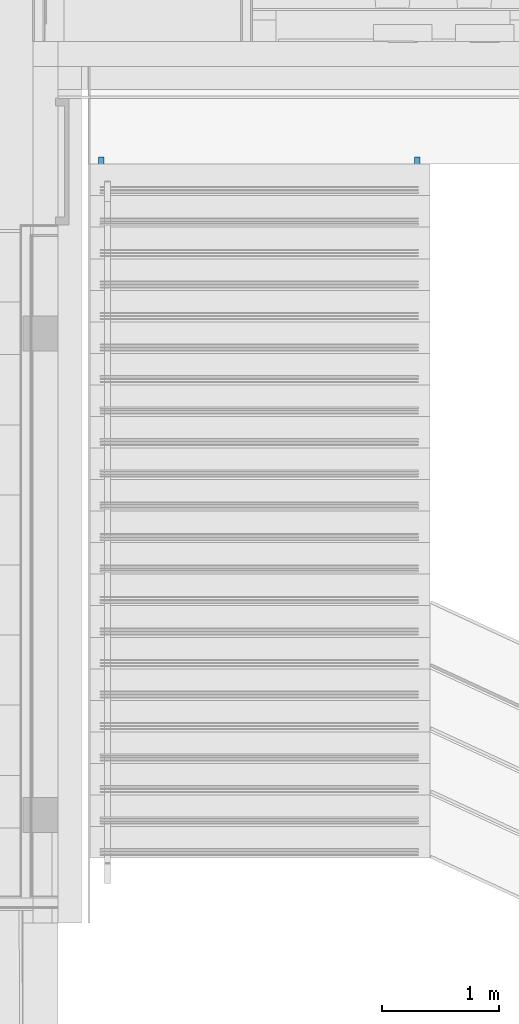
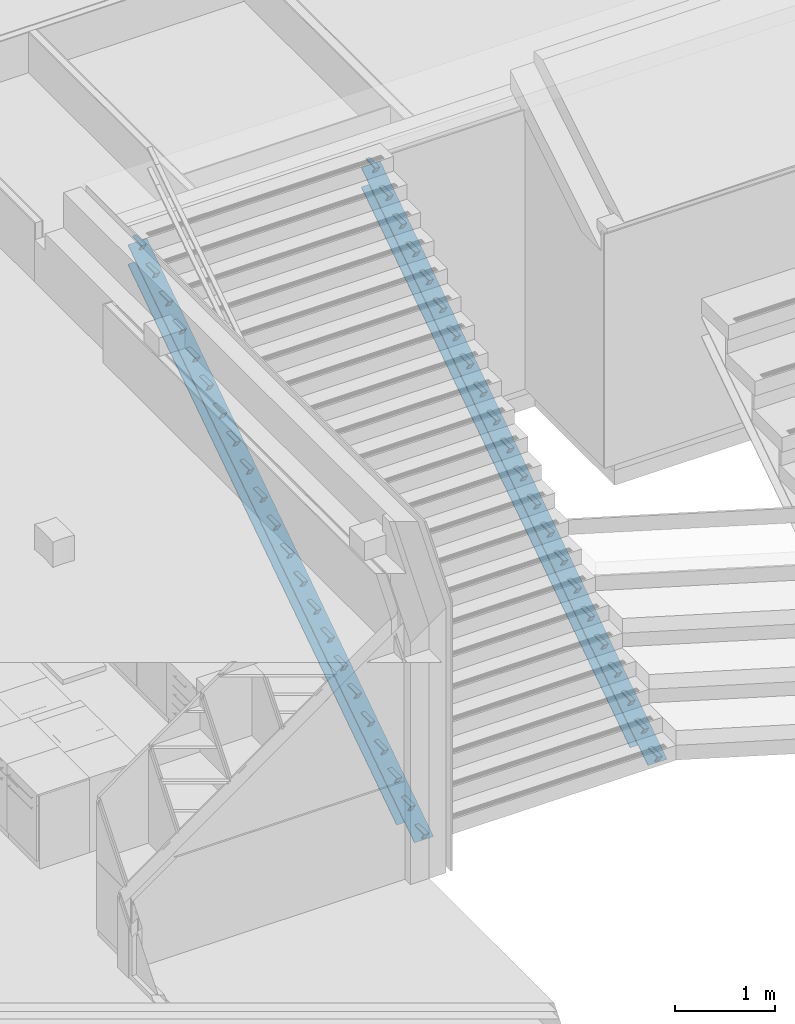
# One storey, part 23 of 167: 1 stair flight, 1 element without a shape of its own.
"""IFC2X3 building model written with IfcOpenShell, lengths in millimetres."""

from ifc_helpers import new_model, entity, si_unit, converted_unit, derived_unit, money_unit, direction, frame, origin_with_axes, place, context, subcontext, project, spatial, faceted_brep, material, type_object, element, aggregate, save


model = new_model("IFC2X3")

# Units and contexts
model_context = context("Model", 3, precision=0.01, world=origin_with_axes(), true_north=direction((0.0, 1.0)))
plan_context = context("Plan", 3, precision=0.01, world=origin_with_axes(), true_north=direction((0.0, 1.0)))
body_context = subcontext(model_context, "Body", "Model", "MODEL_VIEW")
ifc_project = project(units=[si_unit("LENGTHUNIT", "METRE", prefix="MILLI"), si_unit("AREAUNIT", "SQUARE_METRE"), si_unit("VOLUMEUNIT", "CUBIC_METRE"), converted_unit("PLANEANGLEUNIT", "DEGREE", entity("IfcPlaneAngleMeasure", 0.0174532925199), si_unit("PLANEANGLEUNIT", "RADIAN"), dimensions=[0, 0, 0, 0, 0, 0, 0]), si_unit("SOLIDANGLEUNIT", "STERADIAN"), money_unit("EUR"), converted_unit("TIMEUNIT", "Year", entity("IfcTimeMeasure", 31556926.0), si_unit("TIMEUNIT", "SECOND"), dimensions=[0, 0, 1, 0, 0, 0, 0]), si_unit("MASSUNIT", "GRAM", prefix="KILO"), si_unit("THERMODYNAMICTEMPERATUREUNIT", "DEGREE_CELSIUS"), si_unit("LUMINOUSINTENSITYUNIT", "LUMEN"), si_unit("ENERGYUNIT", "JOULE", prefix="MEGA"), derived_unit("THERMALCONDUCTANCEUNIT", [(si_unit("POWERUNIT", "WATT"), 1), (si_unit("LENGTHUNIT", "METRE"), -1), (si_unit("THERMODYNAMICTEMPERATUREUNIT", "KELVIN"), -1)]), derived_unit("SPECIFICHEATCAPACITYUNIT", [(si_unit("ENERGYUNIT", "JOULE"), 1), (si_unit("MASSUNIT", "GRAM", prefix="KILO"), -1), (si_unit("THERMODYNAMICTEMPERATUREUNIT", "KELVIN"), -1)]), derived_unit("MASSDENSITYUNIT", [(si_unit("MASSUNIT", "GRAM", prefix="KILO"), 1), (si_unit("VOLUMEUNIT", "CUBIC_METRE"), -1)])], contexts=[model_context, plan_context])

# Site, building, storey
site_placement = place(None, origin_with_axes())
site = spatial("IfcSite", under=ifc_project, at=site_placement, Name="Site", CompositionType="ELEMENT")
building_placement = place(site_placement, origin_with_axes())
building = spatial("IfcBuilding", under=site, at=building_placement, Name="Naam gebouw", CompositionType="ELEMENT")
storey_placement = place(building_placement, origin_with_axes())
storey = spatial("IfcBuildingStorey", under=building, at=storey_placement, Name="Begane grond", CompositionType="ELEMENT", Elevation=0.0)

# Stair, stair flight
stair_placement = place(storey_placement, frame((29059.9559721, 24308.0128651, 0.0), z_axis=(0.0, 0.0, 1.0), x_axis=(1.0, 0.0, 0.0)))
stair = element("IfcStair", 1, at=stair_placement, inside=storey, Name="_Trap_Trap-x", ShapeType="NOTDEFINED")
ifc_material = material(Name="Metaal - Staal C")
stair_flight_type = type_object("IfcStairFlightType", Name="IfcStairFlight", PredefinedType="NOTDEFINED")
stair_flight_placement = place(stair_placement, origin_with_axes())
stair_flight = element("IfcStairFlight", 2, at=stair_flight_placement, type_object=stair_flight_type, material=ifc_material, Name="_Trapsegment_Trapsegment-x", context=body_context, shape_type="Brep", body=[
    faceted_brep([(220.0, 199.930532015, -100.0), (220.0, 5940.0, 3726.71297866), (220.0, 5940.0, 3739.93333333), (220.0, 180.1, -100.0), (113.5, 199.930532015, -100.0), (113.5, 5940.0, 3726.71297866), (0.0, 5940.0, 3739.93333333), (110.0, 5940.0, 3739.93333333), (113.5, 5940.0, 3500.76509873), (220.0, 5940.0, 3500.76509873), (220.0, 5940.0, 3487.54474405), (0.0, 5940.0, 3487.54474405), (0.0, 5940.0, 3500.76509873), (106.5, 5940.0, 3500.76509873), (106.5, 5940.0, 3726.71297866), (0.0, 5940.0, 3726.71297866), (110.0, 180.1, -100.0), (220.0, 538.852351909, -100.0), (113.5, 538.852351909, -100.0), (0.0, 180.1, -100.0), (0.0, 199.930532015, -100.0), (106.5, 199.930532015, -100.0), (106.5, 538.852351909, -100.0), (0.0, 538.852351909, -100.0), (0.0, 558.682883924, -100.0), (220.0, 558.682883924, -100.0)], [[[0, 1, 2, 3]], [[4, 5, 1, 0]], [[6, 7, 2, 1, 5, 8, 9, 10, 11, 12, 13, 14, 15]], [[3, 2, 7, 16]], [[17, 18, 4, 0, 3, 19, 20, 21, 22, 23, 24, 25]], [[18, 8, 5, 4]], [[16, 7, 6, 19]], [[17, 9, 8, 18]], [[25, 10, 9, 17]], [[24, 11, 10, 25]], [[23, 12, 11, 24]], [[22, 13, 12, 23]], [[21, 14, 13, 22]], [[20, 15, 14, 21]], [[19, 6, 15, 20]], [[16, 19, 3]]]),
    faceted_brep([(135.0, 315.1, -10.0), (135.0, 330.1, 0.0), (135.0, 130.1, 0.0), (135.0, 191.638461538, -92.3076923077), (135.0, 199.958964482, -86.7606903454), (135.0, 148.785170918, -10.0), (85.0, 315.1, -10.0), (85.0, 330.1, 0.0), (85.0, 130.1, 0.0), (85.0, 191.638461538, -92.3076923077), (85.0, 199.958964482, -86.7606903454), (85.0, 148.785170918, -10.0)], [[[0, 1, 2, 3, 4, 5]], [[1, 0, 6, 7]], [[1, 7, 8, 2]], [[9, 3, 2, 8]], [[4, 3, 9, 10]], [[4, 10, 11, 5]], [[6, 0, 5, 11]], [[7, 6, 11, 10, 9, 8]]]),
    faceted_brep([(135.0, 585.1, 170.0), (135.0, 600.1, 180.0), (135.0, 400.1, 180.0), (135.0, 461.638461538, 87.6923076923), (135.0, 469.958964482, 93.2393096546), (135.0, 418.785170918, 170.0), (85.0, 585.1, 170.0), (85.0, 600.1, 180.0), (85.0, 400.1, 180.0), (85.0, 461.638461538, 87.6923076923), (85.0, 469.958964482, 93.2393096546), (85.0, 418.785170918, 170.0)], [[[0, 1, 2, 3, 4, 5]], [[1, 0, 6, 7]], [[1, 7, 8, 2]], [[9, 3, 2, 8]], [[4, 3, 9, 10]], [[4, 10, 11, 5]], [[6, 0, 5, 11]], [[7, 6, 11, 10, 9, 8]]]),
    faceted_brep([(135.0, 855.1, 350.0), (135.0, 870.1, 360.0), (135.0, 670.1, 360.0), (135.0, 731.638461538, 267.692307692), (135.0, 739.958964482, 273.239309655), (135.0, 688.785170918, 350.0), (85.0, 855.1, 350.0), (85.0, 870.1, 360.0), (85.0, 670.1, 360.0), (85.0, 731.638461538, 267.692307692), (85.0, 739.958964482, 273.239309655), (85.0, 688.785170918, 350.0)], [[[0, 1, 2, 3, 4, 5]], [[1, 0, 6, 7]], [[1, 7, 8, 2]], [[9, 3, 2, 8]], [[4, 3, 9, 10]], [[4, 10, 11, 5]], [[6, 0, 5, 11]], [[7, 6, 11, 10, 9, 8]]]),
    faceted_brep([(135.0, 1125.1, 530.0), (135.0, 1140.1, 540.0), (135.0, 940.1, 540.0), (135.0, 1001.63846154, 447.692307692), (135.0, 1009.95896448, 453.239309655), (135.0, 958.785170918, 530.0), (85.0, 1125.1, 530.0), (85.0, 1140.1, 540.0), (85.0, 940.1, 540.0), (85.0, 1001.63846154, 447.692307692), (85.0, 1009.95896448, 453.239309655), (85.0, 958.785170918, 530.0)], [[[0, 1, 2, 3, 4, 5]], [[1, 0, 6, 7]], [[1, 7, 8, 2]], [[9, 3, 2, 8]], [[4, 3, 9, 10]], [[4, 10, 11, 5]], [[6, 0, 5, 11]], [[7, 6, 11, 10, 9, 8]]]),
    faceted_brep([(135.0, 1395.1, 710.0), (135.0, 1410.1, 720.0), (135.0, 1210.1, 720.0), (135.0, 1271.63846154, 627.692307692), (135.0, 1279.95896448, 633.239309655), (135.0, 1228.78517092, 710.0), (85.0, 1395.1, 710.0), (85.0, 1410.1, 720.0), (85.0, 1210.1, 720.0), (85.0, 1271.63846154, 627.692307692), (85.0, 1279.95896448, 633.239309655), (85.0, 1228.78517092, 710.0)], [[[0, 1, 2, 3, 4, 5]], [[1, 0, 6, 7]], [[1, 7, 8, 2]], [[9, 3, 2, 8]], [[4, 3, 9, 10]], [[4, 10, 11, 5]], [[6, 0, 5, 11]], [[7, 6, 11, 10, 9, 8]]]),
    faceted_brep([(135.0, 1665.1, 890.0), (135.0, 1680.1, 900.0), (135.0, 1480.1, 900.0), (135.0, 1541.63846154, 807.692307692), (135.0, 1549.95896448, 813.239309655), (135.0, 1498.78517092, 890.0), (85.0, 1665.1, 890.0), (85.0, 1680.1, 900.0), (85.0, 1480.1, 900.0), (85.0, 1541.63846154, 807.692307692), (85.0, 1549.95896448, 813.239309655), (85.0, 1498.78517092, 890.0)], [[[0, 1, 2, 3, 4, 5]], [[1, 0, 6, 7]], [[1, 7, 8, 2]], [[9, 3, 2, 8]], [[4, 3, 9, 10]], [[4, 10, 11, 5]], [[6, 0, 5, 11]], [[7, 6, 11, 10, 9, 8]]]),
    faceted_brep([(135.0, 1935.1, 1070.0), (135.0, 1950.1, 1080.0), (135.0, 1750.1, 1080.0), (135.0, 1811.63846154, 987.692307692), (135.0, 1819.95896448, 993.239309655), (135.0, 1768.78517092, 1070.0), (85.0, 1935.1, 1070.0), (85.0, 1950.1, 1080.0), (85.0, 1750.1, 1080.0), (85.0, 1811.63846154, 987.692307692), (85.0, 1819.95896448, 993.239309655), (85.0, 1768.78517092, 1070.0)], [[[0, 1, 2, 3, 4, 5]], [[1, 0, 6, 7]], [[1, 7, 8, 2]], [[9, 3, 2, 8]], [[4, 3, 9, 10]], [[4, 10, 11, 5]], [[6, 0, 5, 11]], [[7, 6, 11, 10, 9, 8]]]),
    faceted_brep([(135.0, 2205.1, 1250.0), (135.0, 2220.1, 1260.0), (135.0, 2020.1, 1260.0), (135.0, 2081.63846154, 1167.69230769), (135.0, 2089.95896448, 1173.23930965), (135.0, 2038.78517092, 1250.0), (85.0, 2205.1, 1250.0), (85.0, 2220.1, 1260.0), (85.0, 2020.1, 1260.0), (85.0, 2081.63846154, 1167.69230769), (85.0, 2089.95896448, 1173.23930965), (85.0, 2038.78517092, 1250.0)], [[[0, 1, 2, 3, 4, 5]], [[1, 0, 6, 7]], [[1, 7, 8, 2]], [[9, 3, 2, 8]], [[4, 3, 9, 10]], [[4, 10, 11, 5]], [[6, 0, 5, 11]], [[7, 6, 11, 10, 9, 8]]]),
    faceted_brep([(135.0, 2475.1, 1430.0), (135.0, 2490.1, 1440.0), (135.0, 2290.1, 1440.0), (135.0, 2351.63846154, 1347.69230769), (135.0, 2359.95896448, 1353.23930965), (135.0, 2308.78517092, 1430.0), (85.0, 2475.1, 1430.0), (85.0, 2490.1, 1440.0), (85.0, 2290.1, 1440.0), (85.0, 2351.63846154, 1347.69230769), (85.0, 2359.95896448, 1353.23930965), (85.0, 2308.78517092, 1430.0)], [[[0, 1, 2, 3, 4, 5]], [[1, 0, 6, 7]], [[1, 7, 8, 2]], [[9, 3, 2, 8]], [[4, 3, 9, 10]], [[4, 10, 11, 5]], [[6, 0, 5, 11]], [[7, 6, 11, 10, 9, 8]]]),
    faceted_brep([(135.0, 2745.1, 1610.0), (135.0, 2760.1, 1620.0), (135.0, 2560.1, 1620.0), (135.0, 2621.63846154, 1527.69230769), (135.0, 2629.95896448, 1533.23930965), (135.0, 2578.78517092, 1610.0), (85.0, 2745.1, 1610.0), (85.0, 2760.1, 1620.0), (85.0, 2560.1, 1620.0), (85.0, 2621.63846154, 1527.69230769), (85.0, 2629.95896448, 1533.23930965), (85.0, 2578.78517092, 1610.0)], [[[0, 1, 2, 3, 4, 5]], [[1, 0, 6, 7]], [[1, 7, 8, 2]], [[9, 3, 2, 8]], [[4, 3, 9, 10]], [[4, 10, 11, 5]], [[6, 0, 5, 11]], [[7, 6, 11, 10, 9, 8]]]),
    faceted_brep([(135.0, 3015.1, 1790.0), (135.0, 3030.1, 1800.0), (135.0, 2830.1, 1800.0), (135.0, 2891.63846154, 1707.69230769), (135.0, 2899.95896448, 1713.23930965), (135.0, 2848.78517092, 1790.0), (85.0, 3015.1, 1790.0), (85.0, 3030.1, 1800.0), (85.0, 2830.1, 1800.0), (85.0, 2891.63846154, 1707.69230769), (85.0, 2899.95896448, 1713.23930965), (85.0, 2848.78517092, 1790.0)], [[[0, 1, 2, 3, 4, 5]], [[1, 0, 6, 7]], [[1, 7, 8, 2]], [[9, 3, 2, 8]], [[4, 3, 9, 10]], [[4, 10, 11, 5]], [[6, 0, 5, 11]], [[7, 6, 11, 10, 9, 8]]]),
    faceted_brep([(135.0, 3285.1, 1970.0), (135.0, 3300.1, 1980.0), (135.0, 3100.1, 1980.0), (135.0, 3161.63846154, 1887.69230769), (135.0, 3169.95896448, 1893.23930965), (135.0, 3118.78517092, 1970.0), (85.0, 3285.1, 1970.0), (85.0, 3300.1, 1980.0), (85.0, 3100.1, 1980.0), (85.0, 3161.63846154, 1887.69230769), (85.0, 3169.95896448, 1893.23930965), (85.0, 3118.78517092, 1970.0)], [[[0, 1, 2, 3, 4, 5]], [[1, 0, 6, 7]], [[1, 7, 8, 2]], [[9, 3, 2, 8]], [[4, 3, 9, 10]], [[4, 10, 11, 5]], [[6, 0, 5, 11]], [[7, 6, 11, 10, 9, 8]]]),
    faceted_brep([(135.0, 3555.1, 2150.0), (135.0, 3570.1, 2160.0), (135.0, 3370.1, 2160.0), (135.0, 3431.63846154, 2067.69230769), (135.0, 3439.95896448, 2073.23930965), (135.0, 3388.78517092, 2150.0), (85.0, 3555.1, 2150.0), (85.0, 3570.1, 2160.0), (85.0, 3370.1, 2160.0), (85.0, 3431.63846154, 2067.69230769), (85.0, 3439.95896448, 2073.23930965), (85.0, 3388.78517092, 2150.0)], [[[0, 1, 2, 3, 4, 5]], [[1, 0, 6, 7]], [[1, 7, 8, 2]], [[9, 3, 2, 8]], [[4, 3, 9, 10]], [[4, 10, 11, 5]], [[6, 0, 5, 11]], [[7, 6, 11, 10, 9, 8]]]),
    faceted_brep([(135.0, 3825.1, 2330.0), (135.0, 3840.1, 2340.0), (135.0, 3640.1, 2340.0), (135.0, 3701.63846154, 2247.69230769), (135.0, 3709.95896448, 2253.23930965), (135.0, 3658.78517092, 2330.0), (85.0, 3825.1, 2330.0), (85.0, 3840.1, 2340.0), (85.0, 3640.1, 2340.0), (85.0, 3701.63846154, 2247.69230769), (85.0, 3709.95896448, 2253.23930965), (85.0, 3658.78517092, 2330.0)], [[[0, 1, 2, 3, 4, 5]], [[1, 0, 6, 7]], [[1, 7, 8, 2]], [[9, 3, 2, 8]], [[4, 3, 9, 10]], [[4, 10, 11, 5]], [[6, 0, 5, 11]], [[7, 6, 11, 10, 9, 8]]]),
    faceted_brep([(135.0, 4095.1, 2510.0), (135.0, 4110.1, 2520.0), (135.0, 3910.1, 2520.0), (135.0, 3971.63846154, 2427.69230769), (135.0, 3979.95896448, 2433.23930965), (135.0, 3928.78517092, 2510.0), (85.0, 4095.1, 2510.0), (85.0, 4110.1, 2520.0), (85.0, 3910.1, 2520.0), (85.0, 3971.63846154, 2427.69230769), (85.0, 3979.95896448, 2433.23930965), (85.0, 3928.78517092, 2510.0)], [[[0, 1, 2, 3, 4, 5]], [[1, 0, 6, 7]], [[1, 7, 8, 2]], [[9, 3, 2, 8]], [[4, 3, 9, 10]], [[4, 10, 11, 5]], [[6, 0, 5, 11]], [[7, 6, 11, 10, 9, 8]]]),
    faceted_brep([(135.0, 4365.1, 2690.0), (135.0, 4380.1, 2700.0), (135.0, 4180.1, 2700.0), (135.0, 4241.63846154, 2607.69230769), (135.0, 4249.95896448, 2613.23930965), (135.0, 4198.78517092, 2690.0), (85.0, 4365.1, 2690.0), (85.0, 4380.1, 2700.0), (85.0, 4180.1, 2700.0), (85.0, 4241.63846154, 2607.69230769), (85.0, 4249.95896448, 2613.23930965), (85.0, 4198.78517092, 2690.0)], [[[0, 1, 2, 3, 4, 5]], [[1, 0, 6, 7]], [[1, 7, 8, 2]], [[9, 3, 2, 8]], [[4, 3, 9, 10]], [[4, 10, 11, 5]], [[6, 0, 5, 11]], [[7, 6, 11, 10, 9, 8]]]),
    faceted_brep([(135.0, 4635.1, 2870.0), (135.0, 4650.1, 2880.0), (135.0, 4450.1, 2880.0), (135.0, 4511.63846154, 2787.69230769), (135.0, 4519.95896448, 2793.23930965), (135.0, 4468.78517092, 2870.0), (85.0, 4635.1, 2870.0), (85.0, 4650.1, 2880.0), (85.0, 4450.1, 2880.0), (85.0, 4511.63846154, 2787.69230769), (85.0, 4519.95896448, 2793.23930965), (85.0, 4468.78517092, 2870.0)], [[[0, 1, 2, 3, 4, 5]], [[1, 0, 6, 7]], [[1, 7, 8, 2]], [[9, 3, 2, 8]], [[4, 3, 9, 10]], [[4, 10, 11, 5]], [[6, 0, 5, 11]], [[7, 6, 11, 10, 9, 8]]]),
    faceted_brep([(135.0, 4905.1, 3050.0), (135.0, 4920.1, 3060.0), (135.0, 4720.1, 3060.0), (135.0, 4781.63846154, 2967.69230769), (135.0, 4789.95896448, 2973.23930965), (135.0, 4738.78517092, 3050.0), (85.0, 4905.1, 3050.0), (85.0, 4920.1, 3060.0), (85.0, 4720.1, 3060.0), (85.0, 4781.63846154, 2967.69230769), (85.0, 4789.95896448, 2973.23930965), (85.0, 4738.78517092, 3050.0)], [[[0, 1, 2, 3, 4, 5]], [[1, 0, 6, 7]], [[1, 7, 8, 2]], [[9, 3, 2, 8]], [[4, 3, 9, 10]], [[4, 10, 11, 5]], [[6, 0, 5, 11]], [[7, 6, 11, 10, 9, 8]]]),
    faceted_brep([(135.0, 5175.1, 3230.0), (135.0, 5190.1, 3240.0), (135.0, 4990.1, 3240.0), (135.0, 5051.63846154, 3147.69230769), (135.0, 5059.95896448, 3153.23930965), (135.0, 5008.78517092, 3230.0), (85.0, 5175.1, 3230.0), (85.0, 5190.1, 3240.0), (85.0, 4990.1, 3240.0), (85.0, 5051.63846154, 3147.69230769), (85.0, 5059.95896448, 3153.23930965), (85.0, 5008.78517092, 3230.0)], [[[0, 1, 2, 3, 4, 5]], [[1, 0, 6, 7]], [[1, 7, 8, 2]], [[9, 3, 2, 8]], [[4, 3, 9, 10]], [[4, 10, 11, 5]], [[6, 0, 5, 11]], [[7, 6, 11, 10, 9, 8]]]),
    faceted_brep([(135.0, 5445.1, 3410.0), (135.0, 5460.1, 3420.0), (135.0, 5260.1, 3420.0), (135.0, 5321.63846154, 3327.69230769), (135.0, 5329.95896448, 3333.23930965), (135.0, 5278.78517092, 3410.0), (85.0, 5445.1, 3410.0), (85.0, 5460.1, 3420.0), (85.0, 5260.1, 3420.0), (85.0, 5321.63846154, 3327.69230769), (85.0, 5329.95896448, 3333.23930965), (85.0, 5278.78517092, 3410.0)], [[[0, 1, 2, 3, 4, 5]], [[1, 0, 6, 7]], [[1, 7, 8, 2]], [[9, 3, 2, 8]], [[4, 3, 9, 10]], [[4, 10, 11, 5]], [[6, 0, 5, 11]], [[7, 6, 11, 10, 9, 8]]]),
    faceted_brep([(135.0, 5715.1, 3590.0), (135.0, 5730.1, 3600.0), (135.0, 5530.1, 3600.0), (135.0, 5591.63846154, 3507.69230769), (135.0, 5599.95896448, 3513.23930965), (135.0, 5548.78517092, 3590.0), (85.0, 5715.1, 3590.0), (85.0, 5730.1, 3600.0), (85.0, 5530.1, 3600.0), (85.0, 5591.63846154, 3507.69230769), (85.0, 5599.95896448, 3513.23930965), (85.0, 5548.78517092, 3590.0)], [[[0, 1, 2, 3, 4, 5]], [[1, 0, 6, 7]], [[1, 7, 8, 2]], [[9, 3, 2, 8]], [[4, 3, 9, 10]], [[4, 10, 11, 5]], [[6, 0, 5, 11]], [[7, 6, 11, 10, 9, 8]]]),
    faceted_brep([(135.0, 5985.1, 3770.0), (135.0, 6000.1, 3780.0), (135.0, 5800.1, 3780.0), (135.0, 5861.63846154, 3687.69230769), (135.0, 5869.95896448, 3693.23930965), (135.0, 5818.78517092, 3770.0), (85.0, 5985.1, 3770.0), (85.0, 6000.1, 3780.0), (85.0, 5800.1, 3780.0), (85.0, 5861.63846154, 3687.69230769), (85.0, 5869.95896448, 3693.23930965), (85.0, 5818.78517092, 3770.0)], [[[0, 1, 2, 3, 4, 5]], [[1, 0, 6, 7]], [[1, 7, 8, 2]], [[9, 3, 2, 8]], [[4, 3, 9, 10]], [[4, 10, 11, 5]], [[6, 0, 5, 11]], [[7, 6, 11, 10, 9, 8]]]),
    faceted_brep([(2926.0418928, 199.930532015, -100.0), (2926.0418928, 5940.0, 3726.71297866), (2926.0418928, 5940.0, 3739.93333333), (2926.0418928, 180.1, -100.0), (2819.5418928, 199.930532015, -100.0), (2819.5418928, 5940.0, 3726.71297866), (2706.0418928, 5940.0, 3739.93333333), (2816.0418928, 5940.0, 3739.93333333), (2819.5418928, 5940.0, 3500.76509873), (2926.0418928, 5940.0, 3500.76509873), (2926.0418928, 5940.0, 3487.54474405), (2706.0418928, 5940.0, 3487.54474405), (2706.0418928, 5940.0, 3500.76509873), (2812.5418928, 5940.0, 3500.76509873), (2812.5418928, 5940.0, 3726.71297866), (2706.0418928, 5940.0, 3726.71297866), (2816.0418928, 180.1, -100.0), (2926.0418928, 538.852351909, -100.0), (2819.5418928, 538.852351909, -100.0), (2706.0418928, 180.1, -100.0), (2706.0418928, 199.930532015, -100.0), (2812.5418928, 199.930532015, -100.0), (2812.5418928, 538.852351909, -100.0), (2706.0418928, 538.852351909, -100.0), (2706.0418928, 558.682883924, -100.0), (2926.0418928, 558.682883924, -100.0)], [[[0, 1, 2, 3]], [[4, 5, 1, 0]], [[6, 7, 2, 1, 5, 8, 9, 10, 11, 12, 13, 14, 15]], [[3, 2, 7, 16]], [[17, 18, 4, 0, 3, 19, 20, 21, 22, 23, 24, 25]], [[18, 8, 5, 4]], [[16, 7, 6, 19]], [[17, 9, 8, 18]], [[25, 10, 9, 17]], [[24, 11, 10, 25]], [[23, 12, 11, 24]], [[22, 13, 12, 23]], [[21, 14, 13, 22]], [[20, 15, 14, 21]], [[19, 6, 15, 20]], [[16, 19, 3]]]),
    faceted_brep([(2841.0418928, 315.1, -10.0), (2841.0418928, 330.1, 0.0), (2841.0418928, 130.1, 0.0), (2841.0418928, 191.638461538, -92.3076923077), (2841.0418928, 199.958964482, -86.7606903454), (2841.0418928, 148.785170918, -10.0), (2791.0418928, 315.1, -10.0), (2791.0418928, 330.1, 0.0), (2791.0418928, 130.1, 0.0), (2791.0418928, 191.638461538, -92.3076923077), (2791.0418928, 199.958964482, -86.7606903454), (2791.0418928, 148.785170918, -10.0)], [[[0, 1, 2, 3, 4, 5]], [[1, 0, 6, 7]], [[1, 7, 8, 2]], [[9, 3, 2, 8]], [[4, 3, 9, 10]], [[4, 10, 11, 5]], [[6, 0, 5, 11]], [[7, 6, 11, 10, 9, 8]]]),
    faceted_brep([(2841.0418928, 585.1, 170.0), (2841.0418928, 600.1, 180.0), (2841.0418928, 400.1, 180.0), (2841.0418928, 461.638461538, 87.6923076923), (2841.0418928, 469.958964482, 93.2393096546), (2841.0418928, 418.785170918, 170.0), (2791.0418928, 585.1, 170.0), (2791.0418928, 600.1, 180.0), (2791.0418928, 400.1, 180.0), (2791.0418928, 461.638461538, 87.6923076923), (2791.0418928, 469.958964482, 93.2393096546), (2791.0418928, 418.785170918, 170.0)], [[[0, 1, 2, 3, 4, 5]], [[1, 0, 6, 7]], [[1, 7, 8, 2]], [[9, 3, 2, 8]], [[4, 3, 9, 10]], [[4, 10, 11, 5]], [[6, 0, 5, 11]], [[7, 6, 11, 10, 9, 8]]]),
    faceted_brep([(2841.0418928, 855.1, 350.0), (2841.0418928, 870.1, 360.0), (2841.0418928, 670.1, 360.0), (2841.0418928, 731.638461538, 267.692307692), (2841.0418928, 739.958964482, 273.239309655), (2841.0418928, 688.785170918, 350.0), (2791.0418928, 855.1, 350.0), (2791.0418928, 870.1, 360.0), (2791.0418928, 670.1, 360.0), (2791.0418928, 731.638461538, 267.692307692), (2791.0418928, 739.958964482, 273.239309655), (2791.0418928, 688.785170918, 350.0)], [[[0, 1, 2, 3, 4, 5]], [[1, 0, 6, 7]], [[1, 7, 8, 2]], [[9, 3, 2, 8]], [[4, 3, 9, 10]], [[4, 10, 11, 5]], [[6, 0, 5, 11]], [[7, 6, 11, 10, 9, 8]]]),
    faceted_brep([(2841.0418928, 1125.1, 530.0), (2841.0418928, 1140.1, 540.0), (2841.0418928, 940.1, 540.0), (2841.0418928, 1001.63846154, 447.692307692), (2841.0418928, 1009.95896448, 453.239309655), (2841.0418928, 958.785170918, 530.0), (2791.0418928, 1125.1, 530.0), (2791.0418928, 1140.1, 540.0), (2791.0418928, 940.1, 540.0), (2791.0418928, 1001.63846154, 447.692307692), (2791.0418928, 1009.95896448, 453.239309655), (2791.0418928, 958.785170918, 530.0)], [[[0, 1, 2, 3, 4, 5]], [[1, 0, 6, 7]], [[1, 7, 8, 2]], [[9, 3, 2, 8]], [[4, 3, 9, 10]], [[4, 10, 11, 5]], [[6, 0, 5, 11]], [[7, 6, 11, 10, 9, 8]]]),
    faceted_brep([(2841.0418928, 1395.1, 710.0), (2841.0418928, 1410.1, 720.0), (2841.0418928, 1210.1, 720.0), (2841.0418928, 1271.63846154, 627.692307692), (2841.0418928, 1279.95896448, 633.239309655), (2841.0418928, 1228.78517092, 710.0), (2791.0418928, 1395.1, 710.0), (2791.0418928, 1410.1, 720.0), (2791.0418928, 1210.1, 720.0), (2791.0418928, 1271.63846154, 627.692307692), (2791.0418928, 1279.95896448, 633.239309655), (2791.0418928, 1228.78517092, 710.0)], [[[0, 1, 2, 3, 4, 5]], [[1, 0, 6, 7]], [[1, 7, 8, 2]], [[9, 3, 2, 8]], [[4, 3, 9, 10]], [[4, 10, 11, 5]], [[6, 0, 5, 11]], [[7, 6, 11, 10, 9, 8]]]),
    faceted_brep([(2841.0418928, 1665.1, 890.0), (2841.0418928, 1680.1, 900.0), (2841.0418928, 1480.1, 900.0), (2841.0418928, 1541.63846154, 807.692307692), (2841.0418928, 1549.95896448, 813.239309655), (2841.0418928, 1498.78517092, 890.0), (2791.0418928, 1665.1, 890.0), (2791.0418928, 1680.1, 900.0), (2791.0418928, 1480.1, 900.0), (2791.0418928, 1541.63846154, 807.692307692), (2791.0418928, 1549.95896448, 813.239309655), (2791.0418928, 1498.78517092, 890.0)], [[[0, 1, 2, 3, 4, 5]], [[1, 0, 6, 7]], [[1, 7, 8, 2]], [[9, 3, 2, 8]], [[4, 3, 9, 10]], [[4, 10, 11, 5]], [[6, 0, 5, 11]], [[7, 6, 11, 10, 9, 8]]]),
    faceted_brep([(2841.0418928, 1935.1, 1070.0), (2841.0418928, 1950.1, 1080.0), (2841.0418928, 1750.1, 1080.0), (2841.0418928, 1811.63846154, 987.692307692), (2841.0418928, 1819.95896448, 993.239309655), (2841.0418928, 1768.78517092, 1070.0), (2791.0418928, 1935.1, 1070.0), (2791.0418928, 1950.1, 1080.0), (2791.0418928, 1750.1, 1080.0), (2791.0418928, 1811.63846154, 987.692307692), (2791.0418928, 1819.95896448, 993.239309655), (2791.0418928, 1768.78517092, 1070.0)], [[[0, 1, 2, 3, 4, 5]], [[1, 0, 6, 7]], [[1, 7, 8, 2]], [[9, 3, 2, 8]], [[4, 3, 9, 10]], [[4, 10, 11, 5]], [[6, 0, 5, 11]], [[7, 6, 11, 10, 9, 8]]]),
    faceted_brep([(2841.0418928, 2205.1, 1250.0), (2841.0418928, 2220.1, 1260.0), (2841.0418928, 2020.1, 1260.0), (2841.0418928, 2081.63846154, 1167.69230769), (2841.0418928, 2089.95896448, 1173.23930965), (2841.0418928, 2038.78517092, 1250.0), (2791.0418928, 2205.1, 1250.0), (2791.0418928, 2220.1, 1260.0), (2791.0418928, 2020.1, 1260.0), (2791.0418928, 2081.63846154, 1167.69230769), (2791.0418928, 2089.95896448, 1173.23930965), (2791.0418928, 2038.78517092, 1250.0)], [[[0, 1, 2, 3, 4, 5]], [[1, 0, 6, 7]], [[1, 7, 8, 2]], [[9, 3, 2, 8]], [[4, 3, 9, 10]], [[4, 10, 11, 5]], [[6, 0, 5, 11]], [[7, 6, 11, 10, 9, 8]]]),
    faceted_brep([(2841.0418928, 2475.1, 1430.0), (2841.0418928, 2490.1, 1440.0), (2841.0418928, 2290.1, 1440.0), (2841.0418928, 2351.63846154, 1347.69230769), (2841.0418928, 2359.95896448, 1353.23930965), (2841.0418928, 2308.78517092, 1430.0), (2791.0418928, 2475.1, 1430.0), (2791.0418928, 2490.1, 1440.0), (2791.0418928, 2290.1, 1440.0), (2791.0418928, 2351.63846154, 1347.69230769), (2791.0418928, 2359.95896448, 1353.23930965), (2791.0418928, 2308.78517092, 1430.0)], [[[0, 1, 2, 3, 4, 5]], [[1, 0, 6, 7]], [[1, 7, 8, 2]], [[9, 3, 2, 8]], [[4, 3, 9, 10]], [[4, 10, 11, 5]], [[6, 0, 5, 11]], [[7, 6, 11, 10, 9, 8]]]),
    faceted_brep([(2841.0418928, 2745.1, 1610.0), (2841.0418928, 2760.1, 1620.0), (2841.0418928, 2560.1, 1620.0), (2841.0418928, 2621.63846154, 1527.69230769), (2841.0418928, 2629.95896448, 1533.23930965), (2841.0418928, 2578.78517092, 1610.0), (2791.0418928, 2745.1, 1610.0), (2791.0418928, 2760.1, 1620.0), (2791.0418928, 2560.1, 1620.0), (2791.0418928, 2621.63846154, 1527.69230769), (2791.0418928, 2629.95896448, 1533.23930965), (2791.0418928, 2578.78517092, 1610.0)], [[[0, 1, 2, 3, 4, 5]], [[1, 0, 6, 7]], [[1, 7, 8, 2]], [[9, 3, 2, 8]], [[4, 3, 9, 10]], [[4, 10, 11, 5]], [[6, 0, 5, 11]], [[7, 6, 11, 10, 9, 8]]]),
    faceted_brep([(2841.0418928, 3015.1, 1790.0), (2841.0418928, 3030.1, 1800.0), (2841.0418928, 2830.1, 1800.0), (2841.0418928, 2891.63846154, 1707.69230769), (2841.0418928, 2899.95896448, 1713.23930965), (2841.0418928, 2848.78517092, 1790.0), (2791.0418928, 3015.1, 1790.0), (2791.0418928, 3030.1, 1800.0), (2791.0418928, 2830.1, 1800.0), (2791.0418928, 2891.63846154, 1707.69230769), (2791.0418928, 2899.95896448, 1713.23930965), (2791.0418928, 2848.78517092, 1790.0)], [[[0, 1, 2, 3, 4, 5]], [[1, 0, 6, 7]], [[1, 7, 8, 2]], [[9, 3, 2, 8]], [[4, 3, 9, 10]], [[4, 10, 11, 5]], [[6, 0, 5, 11]], [[7, 6, 11, 10, 9, 8]]]),
    faceted_brep([(2841.0418928, 3285.1, 1970.0), (2841.0418928, 3300.1, 1980.0), (2841.0418928, 3100.1, 1980.0), (2841.0418928, 3161.63846154, 1887.69230769), (2841.0418928, 3169.95896448, 1893.23930965), (2841.0418928, 3118.78517092, 1970.0), (2791.0418928, 3285.1, 1970.0), (2791.0418928, 3300.1, 1980.0), (2791.0418928, 3100.1, 1980.0), (2791.0418928, 3161.63846154, 1887.69230769), (2791.0418928, 3169.95896448, 1893.23930965), (2791.0418928, 3118.78517092, 1970.0)], [[[0, 1, 2, 3, 4, 5]], [[1, 0, 6, 7]], [[1, 7, 8, 2]], [[9, 3, 2, 8]], [[4, 3, 9, 10]], [[4, 10, 11, 5]], [[6, 0, 5, 11]], [[7, 6, 11, 10, 9, 8]]]),
    faceted_brep([(2841.0418928, 3555.1, 2150.0), (2841.0418928, 3570.1, 2160.0), (2841.0418928, 3370.1, 2160.0), (2841.0418928, 3431.63846154, 2067.69230769), (2841.0418928, 3439.95896448, 2073.23930965), (2841.0418928, 3388.78517092, 2150.0), (2791.0418928, 3555.1, 2150.0), (2791.0418928, 3570.1, 2160.0), (2791.0418928, 3370.1, 2160.0), (2791.0418928, 3431.63846154, 2067.69230769), (2791.0418928, 3439.95896448, 2073.23930965), (2791.0418928, 3388.78517092, 2150.0)], [[[0, 1, 2, 3, 4, 5]], [[1, 0, 6, 7]], [[1, 7, 8, 2]], [[9, 3, 2, 8]], [[4, 3, 9, 10]], [[4, 10, 11, 5]], [[6, 0, 5, 11]], [[7, 6, 11, 10, 9, 8]]]),
    faceted_brep([(2841.0418928, 3825.1, 2330.0), (2841.0418928, 3840.1, 2340.0), (2841.0418928, 3640.1, 2340.0), (2841.0418928, 3701.63846154, 2247.69230769), (2841.0418928, 3709.95896448, 2253.23930965), (2841.0418928, 3658.78517092, 2330.0), (2791.0418928, 3825.1, 2330.0), (2791.0418928, 3840.1, 2340.0), (2791.0418928, 3640.1, 2340.0), (2791.0418928, 3701.63846154, 2247.69230769), (2791.0418928, 3709.95896448, 2253.23930965), (2791.0418928, 3658.78517092, 2330.0)], [[[0, 1, 2, 3, 4, 5]], [[1, 0, 6, 7]], [[1, 7, 8, 2]], [[9, 3, 2, 8]], [[4, 3, 9, 10]], [[4, 10, 11, 5]], [[6, 0, 5, 11]], [[7, 6, 11, 10, 9, 8]]]),
    faceted_brep([(2841.0418928, 4095.1, 2510.0), (2841.0418928, 4110.1, 2520.0), (2841.0418928, 3910.1, 2520.0), (2841.0418928, 3971.63846154, 2427.69230769), (2841.0418928, 3979.95896448, 2433.23930965), (2841.0418928, 3928.78517092, 2510.0), (2791.0418928, 4095.1, 2510.0), (2791.0418928, 4110.1, 2520.0), (2791.0418928, 3910.1, 2520.0), (2791.0418928, 3971.63846154, 2427.69230769), (2791.0418928, 3979.95896448, 2433.23930965), (2791.0418928, 3928.78517092, 2510.0)], [[[0, 1, 2, 3, 4, 5]], [[1, 0, 6, 7]], [[1, 7, 8, 2]], [[9, 3, 2, 8]], [[4, 3, 9, 10]], [[4, 10, 11, 5]], [[6, 0, 5, 11]], [[7, 6, 11, 10, 9, 8]]]),
    faceted_brep([(2841.0418928, 4365.1, 2690.0), (2841.0418928, 4380.1, 2700.0), (2841.0418928, 4180.1, 2700.0), (2841.0418928, 4241.63846154, 2607.69230769), (2841.0418928, 4249.95896448, 2613.23930965), (2841.0418928, 4198.78517092, 2690.0), (2791.0418928, 4365.1, 2690.0), (2791.0418928, 4380.1, 2700.0), (2791.0418928, 4180.1, 2700.0), (2791.0418928, 4241.63846154, 2607.69230769), (2791.0418928, 4249.95896448, 2613.23930965), (2791.0418928, 4198.78517092, 2690.0)], [[[0, 1, 2, 3, 4, 5]], [[1, 0, 6, 7]], [[1, 7, 8, 2]], [[9, 3, 2, 8]], [[4, 3, 9, 10]], [[4, 10, 11, 5]], [[6, 0, 5, 11]], [[7, 6, 11, 10, 9, 8]]]),
    faceted_brep([(2841.0418928, 4635.1, 2870.0), (2841.0418928, 4650.1, 2880.0), (2841.0418928, 4450.1, 2880.0), (2841.0418928, 4511.63846154, 2787.69230769), (2841.0418928, 4519.95896448, 2793.23930965), (2841.0418928, 4468.78517092, 2870.0), (2791.0418928, 4635.1, 2870.0), (2791.0418928, 4650.1, 2880.0), (2791.0418928, 4450.1, 2880.0), (2791.0418928, 4511.63846154, 2787.69230769), (2791.0418928, 4519.95896448, 2793.23930965), (2791.0418928, 4468.78517092, 2870.0)], [[[0, 1, 2, 3, 4, 5]], [[1, 0, 6, 7]], [[1, 7, 8, 2]], [[9, 3, 2, 8]], [[4, 3, 9, 10]], [[4, 10, 11, 5]], [[6, 0, 5, 11]], [[7, 6, 11, 10, 9, 8]]]),
    faceted_brep([(2841.0418928, 4905.1, 3050.0), (2841.0418928, 4920.1, 3060.0), (2841.0418928, 4720.1, 3060.0), (2841.0418928, 4781.63846154, 2967.69230769), (2841.0418928, 4789.95896448, 2973.23930965), (2841.0418928, 4738.78517092, 3050.0), (2791.0418928, 4905.1, 3050.0), (2791.0418928, 4920.1, 3060.0), (2791.0418928, 4720.1, 3060.0), (2791.0418928, 4781.63846154, 2967.69230769), (2791.0418928, 4789.95896448, 2973.23930965), (2791.0418928, 4738.78517092, 3050.0)], [[[0, 1, 2, 3, 4, 5]], [[1, 0, 6, 7]], [[1, 7, 8, 2]], [[9, 3, 2, 8]], [[4, 3, 9, 10]], [[4, 10, 11, 5]], [[6, 0, 5, 11]], [[7, 6, 11, 10, 9, 8]]]),
    faceted_brep([(2841.0418928, 5175.1, 3230.0), (2841.0418928, 5190.1, 3240.0), (2841.0418928, 4990.1, 3240.0), (2841.0418928, 5051.63846154, 3147.69230769), (2841.0418928, 5059.95896448, 3153.23930965), (2841.0418928, 5008.78517092, 3230.0), (2791.0418928, 5175.1, 3230.0), (2791.0418928, 5190.1, 3240.0), (2791.0418928, 4990.1, 3240.0), (2791.0418928, 5051.63846154, 3147.69230769), (2791.0418928, 5059.95896448, 3153.23930965), (2791.0418928, 5008.78517092, 3230.0)], [[[0, 1, 2, 3, 4, 5]], [[1, 0, 6, 7]], [[1, 7, 8, 2]], [[9, 3, 2, 8]], [[4, 3, 9, 10]], [[4, 10, 11, 5]], [[6, 0, 5, 11]], [[7, 6, 11, 10, 9, 8]]]),
    faceted_brep([(2841.0418928, 5445.1, 3410.0), (2841.0418928, 5460.1, 3420.0), (2841.0418928, 5260.1, 3420.0), (2841.0418928, 5321.63846154, 3327.69230769), (2841.0418928, 5329.95896448, 3333.23930965), (2841.0418928, 5278.78517092, 3410.0), (2791.0418928, 5445.1, 3410.0), (2791.0418928, 5460.1, 3420.0), (2791.0418928, 5260.1, 3420.0), (2791.0418928, 5321.63846154, 3327.69230769), (2791.0418928, 5329.95896448, 3333.23930965), (2791.0418928, 5278.78517092, 3410.0)], [[[0, 1, 2, 3, 4, 5]], [[1, 0, 6, 7]], [[1, 7, 8, 2]], [[9, 3, 2, 8]], [[4, 3, 9, 10]], [[4, 10, 11, 5]], [[6, 0, 5, 11]], [[7, 6, 11, 10, 9, 8]]]),
    faceted_brep([(2841.0418928, 5715.1, 3590.0), (2841.0418928, 5730.1, 3600.0), (2841.0418928, 5530.1, 3600.0), (2841.0418928, 5591.63846154, 3507.69230769), (2841.0418928, 5599.95896448, 3513.23930965), (2841.0418928, 5548.78517092, 3590.0), (2791.0418928, 5715.1, 3590.0), (2791.0418928, 5730.1, 3600.0), (2791.0418928, 5530.1, 3600.0), (2791.0418928, 5591.63846154, 3507.69230769), (2791.0418928, 5599.95896448, 3513.23930965), (2791.0418928, 5548.78517092, 3590.0)], [[[0, 1, 2, 3, 4, 5]], [[1, 0, 6, 7]], [[1, 7, 8, 2]], [[9, 3, 2, 8]], [[4, 3, 9, 10]], [[4, 10, 11, 5]], [[6, 0, 5, 11]], [[7, 6, 11, 10, 9, 8]]]),
    faceted_brep([(2841.0418928, 5985.1, 3770.0), (2841.0418928, 6000.1, 3780.0), (2841.0418928, 5800.1, 3780.0), (2841.0418928, 5861.63846154, 3687.69230769), (2841.0418928, 5869.95896448, 3693.23930965), (2841.0418928, 5818.78517092, 3770.0), (2791.0418928, 6000.1, 3780.0), (2791.0418928, 5985.1, 3770.0), (2791.0418928, 5800.1, 3780.0), (2791.0418928, 5861.63846154, 3687.69230769), (2791.0418928, 5869.95896448, 3693.23930965), (2791.0418928, 5818.78517092, 3770.0)], [[[0, 1, 2, 3, 4, 5]], [[6, 1, 0, 7]], [[6, 8, 2, 1]], [[9, 3, 2, 8]], [[4, 3, 9, 10]], [[4, 10, 11, 5]], [[7, 0, 5, 11]], [[6, 7, 11, 10, 9, 8]]]),
])
aggregate(stair, [stair_flight])

save(model, "model.ifc")
